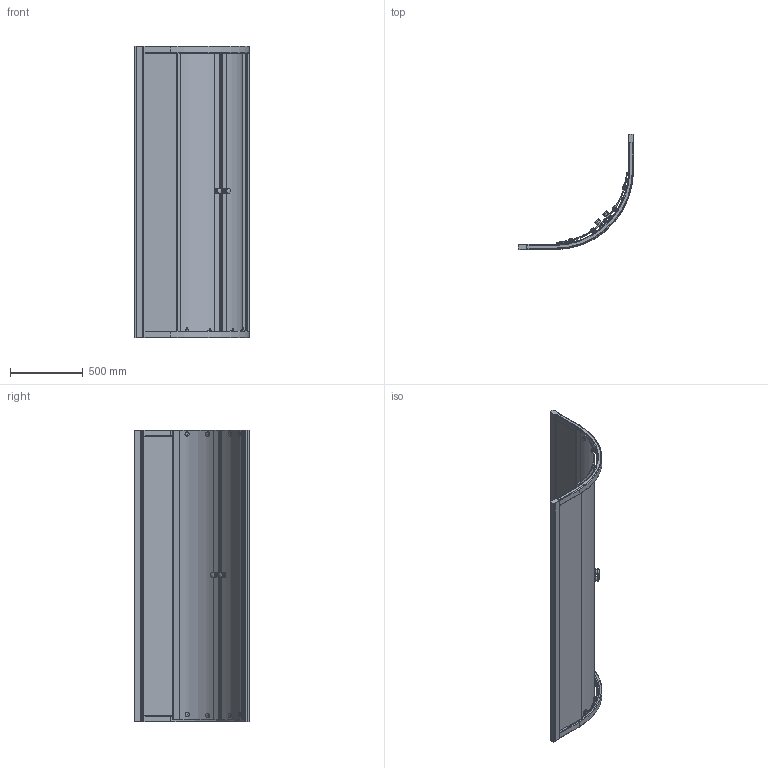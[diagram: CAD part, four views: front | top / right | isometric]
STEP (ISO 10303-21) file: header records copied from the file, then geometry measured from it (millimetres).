
FILE_DESCRIPTION(/* description */ (''),/* implementation_level */ '2;1');
FILE_NAME(/* name */ 'E:\Работа\Сергей\Душевые кабинки\! Работа\!!!!!!!!!!!!\SHAPE ROUND GK-864B\SHAPE ROUND GK-864B-3D.stp',/* time_stamp */ '2018-03-21T21:55:02+03:00',/* author */ ('PC'),/* organization */ (''),/* preprocessor_version */ 'ST-DEVELOPER v15.2',/* originating_system */ 'Autodesk Inventor 2014',/* authorisation */ '');
FILE_SCHEMA (('AUTOMOTIVE_DESIGN { 1 0 10303 214 3 1 1 }'));
Length unit declared in the file: millimetre
Products named in the file (1): SHAPE ROUND GK-864B-3D
Bounding box: 790.79 x 790.79 x 2000.5 mm (x, y, z)
Volume: 28594368.9 mm3; surface area: 6496562.9 mm2
Topology: 5 solids, 9 shells, 790 faces, 2213 edges, 1406 vertices
Faces by surface type: plane 368, cylinder 301, torus 63, sphere 24, bspline 20, cone 14
Full cylindrical faces by diameter (mm): 4.1 x1, 5.3 x2, 6 x6, 7 x2, 8 x4, 10.2 x4, 22.6 x1, 28.7 x8, 38 x8
Entity records: 28071 total; most frequent: CARTESIAN_POINT 7161, ORIENTED_EDGE 4276, DIRECTION 4136, EDGE_CURVE 2130, AXIS2_PLACEMENT_3D 1497, VERTEX_POINT 1379, LINE 1142, VECTOR 1142
